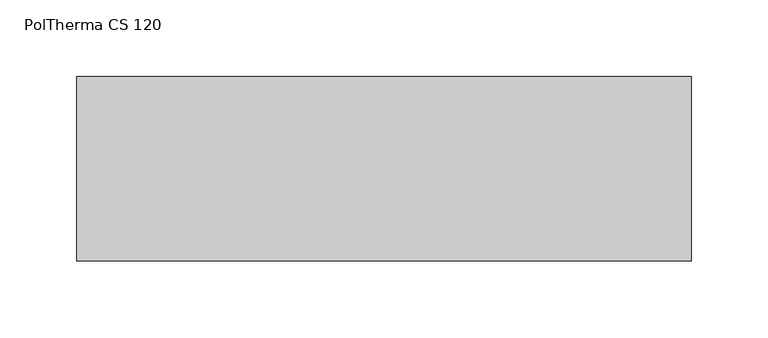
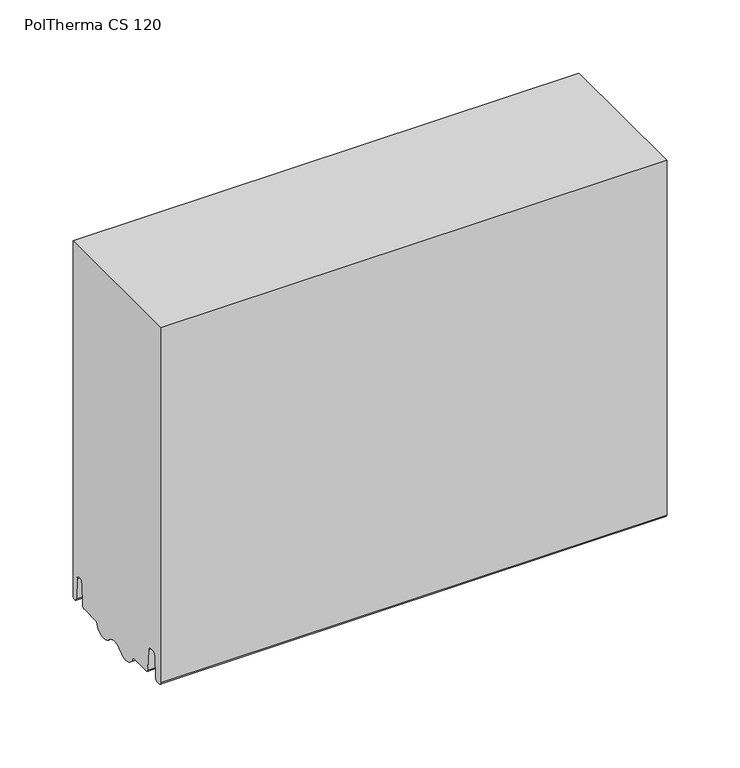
"""IFC4 building model written with IfcOpenShell, lengths in millimetres: plate geometry, Europanels_Poltherma CS_Hz : PolTherma CS 120."""

from ifc_helpers import new_model, si_unit, point, frame, frame_2d, origin, place, context, project, spatial, polyline, circle_curve, trimmed, segment, composite_curve, outline, extrude, source, transform, mapped, element, save


def poltherma_cs_120_6d86f31b(model_context):
    return source(origin(), model_context, "Body", "SweptSolid", [
        extrude(outline(composite_curve([segment(polyline([(-60.0, 3.4988953), (-60.0, 300.0), (60.0, 300.0), (60.0, 3.8623872)]), True, "CONTINUOUS"), segment(trimmed(circle_curve(frame_2d((57.6319739, 3.8623872)), 2.3680261), [point((60.0, 3.8623872))], [point((55.2674058, 3.7344618))], False, "CARTESIAN"), True, "CONTINUOUS"), segment(polyline([(55.2674058, 3.7344618), (54.3293468, 21.0735079)]), True, "CONTINUOUS"), segment(trimmed(circle_curve(frame_2d((51.0496929, 20.8960755)), 3.28445), [point((54.3293468, 21.0735079))], [point((47.7706872, 21.085108))], True, "CARTESIAN"), True, "CONTINUOUS"), segment(polyline([(47.7706872, 21.085108), (46.7366349, 3.1481762)]), True, "CONTINUOUS"), segment(trimmed(circle_curve(frame_2d((44.9895357, 3.2488953)), 1.75), [point((46.7366349, 3.1481762))], [point((44.9895357, 1.4988953))], False, "CARTESIAN"), True, "CONTINUOUS"), segment(polyline([(44.9895357, 1.4988953), (27.5267156, 1.4988953)]), True, "CONTINUOUS"), segment(trimmed(circle_curve(frame_2d((17.7, 3.3524487)), 10.0), [point((27.5267156, 1.4988953))], [point((10.2, -3.2619295))], False, "CARTESIAN"), True, "CONTINUOUS"), segment(trimmed(circle_curve(frame_2d((2.7, -9.8763078)), 10.0), [point((10.2, -3.2619295))], [point((-4.8, -3.2619295))], True, "CARTESIAN"), True, "CONTINUOUS"), segment(trimmed(circle_curve(frame_2d((-12.3, 3.3524487)), 10.0), [point((-4.8, -3.2619295))], [point((-22.1267156, 1.4988953))], False, "CARTESIAN"), True, "CONTINUOUS"), segment(polyline([(-22.1267156, 1.4988953), (-40.5507777, 1.4988953)]), True, "CONTINUOUS"), segment(trimmed(circle_curve(frame_2d((-40.5507777, 3.2988953)), 1.8), [point((-40.5507777, 1.4988953))], [point((-42.3477941, 3.1952985))], False, "CARTESIAN"), True, "CONTINUOUS"), segment(polyline([(-42.3477941, 3.1952985), (-43.3842966, 21.1747334)]), True, "CONTINUOUS"), segment(trimmed(circle_curve(frame_2d((-46.3793238, 21.0020721)), 3.0), [point((-43.3842966, 21.1747334))], [point((-46.3793238, 24.0020721))], True, "CARTESIAN"), True, "CONTINUOUS"), segment(polyline([(-46.3793238, 24.0020721), (-49.3209015, 24.0020721)]), True, "CONTINUOUS"), segment(trimmed(circle_curve(frame_2d((-49.3209015, 21.0020721)), 3.0), [point((-49.3209015, 24.0020721))], [point((-52.3165207, 21.1641379))], True, "CARTESIAN"), True, "CONTINUOUS"), segment(polyline([(-52.3165207, 21.1641379), (-53.2780726, 3.3908514)]), True, "CONTINUOUS"), segment(trimmed(circle_curve(frame_2d((-55.2751521, 3.4988953)), 2.0), [point((-53.2780726, 3.3908514))], [point((-55.2751521, 1.4988953))], False, "CARTESIAN"), True, "CONTINUOUS"), segment(polyline([(-55.2751521, 1.4988953), (-58.0, 1.4988953)]), True, "CONTINUOUS"), segment(trimmed(circle_curve(frame_2d((-58.0, 3.4988953)), 2.0), [point((-58.0, 1.4988953))], [point((-60.0, 3.4988953))], False, "CARTESIAN"), True, "CONTINUOUS")], self_intersect=False)), frame((-200.0, 0.0, 0.0), z_axis=(1.0, 0.0, 0.0), x_axis=(0.0, 1.0, 0.0)), (0.0, 0.0, 1.0), 400.0),
    ])


if __name__ == "__main__":
    model = new_model("IFC4")
    model_context = context("Model", 3, world=origin())
    ifc_project = project(units=[si_unit("LENGTHUNIT", "METRE", prefix="MILLI")], contexts=[model_context])
    site = spatial("IfcSite", under=ifc_project)
    building = spatial("IfcBuilding", under=site)
    placement = place(None, origin())
    poltherma_cs_120_shape = poltherma_cs_120_6d86f31b(model_context)
    element("IfcPlate", 1, ObjectType="Europanels_Poltherma CS_Hz : PolTherma CS 120", at=placement, inside=building, context=model_context, shape_type="MappedRepresentation", body=[
        mapped(poltherma_cs_120_shape, transform((0.0, 0.0, 0.0), x_axis=(1.0, 0.0, 0.0), y_axis=(0.0, 1.0, 0.0), z_axis=(0.0, 0.0, 1.0))),
    ])
    save(model, "model.ifc")
